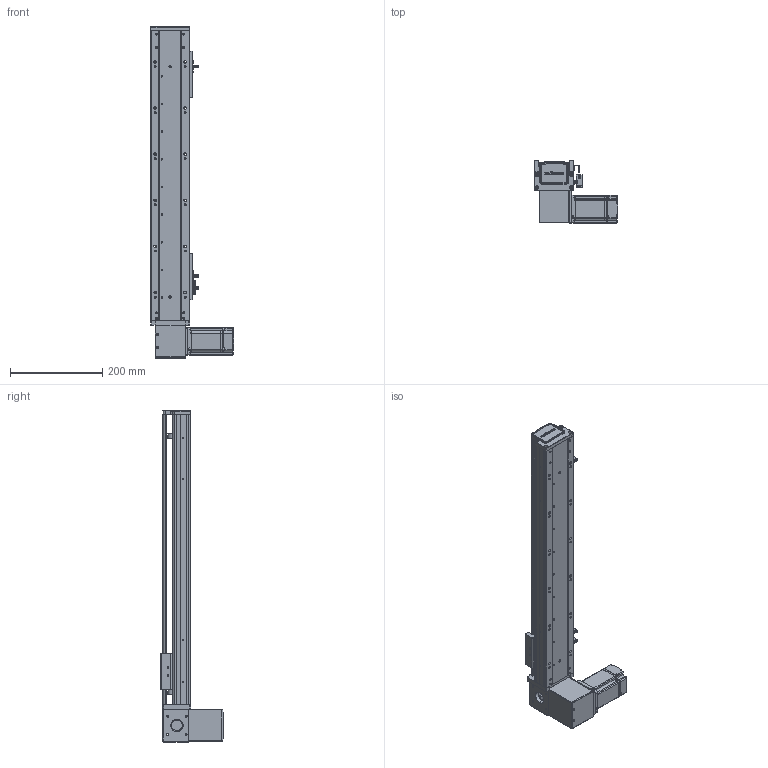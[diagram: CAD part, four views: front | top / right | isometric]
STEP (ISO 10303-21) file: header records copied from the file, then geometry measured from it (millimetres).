
FILE_DESCRIPTION (( 'STEP AP203' ), '1' );
FILE_NAME ('RY80-T-300-DR.SLDASM_450.step', '2021-03-01T01:49:20', ( '盈信电脑' ), ( '东莞市道滘镇水果街19号' ), 'SwSTEP 2.0', 'SolidWorks 2012', '' );
FILE_SCHEMA (( 'CONFIG_CONTROL_DESIGN' ));
Length unit declared in the file: millimetre
Products named in the file (18): RY80-T-M4蹟翐3; RY80-T-300-DR.SLDASM_450; RY80-T萇儂假蚾啣; RY80-T-上下折同步轮盖板; 1; RY80-T肮祭謫狟殏俋欶; RY80-T肮祭湍揤輸2; RY80-T肮祭湍揤輸1; 滅袉蝶18-10; RY80-T翋肮祭謫裔啣; RY80俋离覜茼え; 覜茼ん672; RY80-T-翋肮祭謫釱; 672嫖萇羲壽假蚾釱; RY80-T肮祭謫臏賑輸; RY80-T-300-DR倰第奻裔啣_450; RY80-T綴裔啣; RY80-T-300-DR倰第菁釱_450
Assembly tree (21 placements, depth 2):
  RY80-T-300-DR.SLDASM_450
    RY80-T-300-DR倰第菁釱_450
    RY80-T肮祭謫臏賑輸
    RY80-T-300-DR倰第奻裔啣_450
    RY80-T綴裔啣
    672嫖萇羲壽假蚾釱  x2
    覜茼ん672  x3
    RY80俋离覜茼え
    RY80-T-翋肮祭謫釱
    RY80-T肮祭湍揤輸1
    RY80-T肮祭湍揤輸2
    滅袉蝶18-10  x2
    RY80-T翋肮祭謫裔啣
    RY80-T-上下折同步轮盖板
    RY80-T肮祭謫狟殏俋欶
    RY80-T萇儂假蚾啣
    1
    RY80-T-M4蹟翐3
Bounding box: 180 x 134.5 x 720 mm (x, y, z)
Volume: 1451444.3 mm3; surface area: 584120 mm2
Topology: 21 solids, 21 shells, 2366 faces, 6530 edges, 4238 vertices
Faces by surface type: plane 1299, cylinder 871, cone 140, bspline 56
Entity records: 74924 total; most frequent: CARTESIAN_POINT 18010, ORIENTED_EDGE 11704, DIRECTION 11004, EDGE_CURVE 5852, VERTEX_POINT 3842, AXIS2_PLACEMENT_3D 3668, VECTOR 3668, LINE 3668
